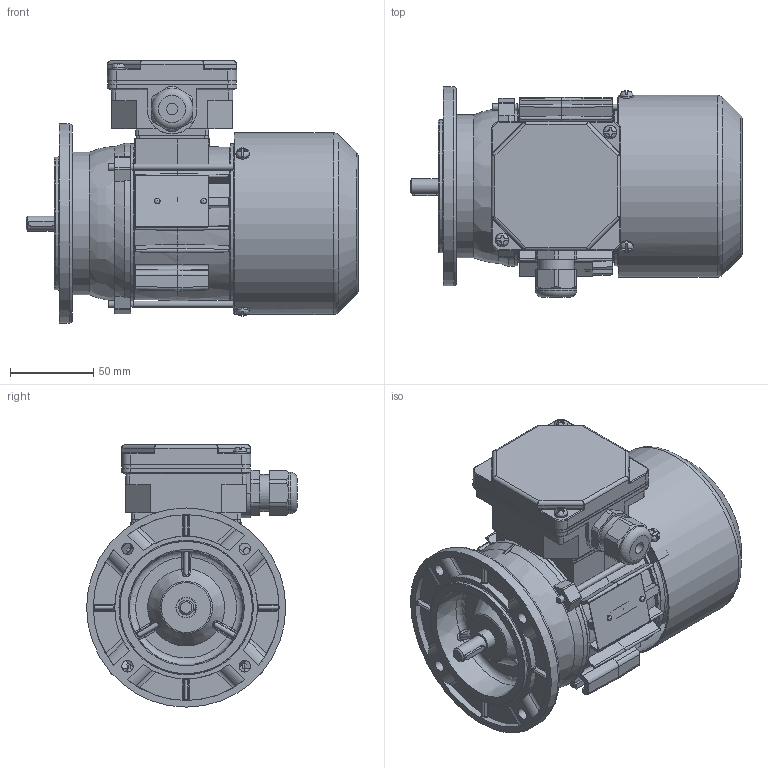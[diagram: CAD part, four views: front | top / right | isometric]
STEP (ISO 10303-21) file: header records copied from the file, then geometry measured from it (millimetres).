
FILE_DESCRIPTION( ( 'Unknown' ), '1' );
FILE_NAME( 'G:/Poczta Tk-1/STP/w.m.56/Sh56/SKh56-C.stp', 'Unknown', ( 'K. Szlosek' ), ( 'BESEL S.A.' ), 'PSStep 17.0.49', 'Unknown', ' ' );
FILE_SCHEMA( ( 'AUTOMOTIVE_DESIGN { 1 0 10303 214 1 1 1 1 }' ) );
Length unit declared in the file: millimetre
Products named in the file (28): Assem1; K4-2320 Uszczelka nr 1 Sh71,80; K3-2193 Tarcza łożyskowa P Sg56-2..; K2-0860 Pokrywka skrzynki zaciskowej; Wpust A3x3x16; K3-2977 Osłona przewietrznika Sg56; K4-2820 Uszczelka nr 2 Sh71,80; Wkręt samogwintujący M4x8; Wkręt samogwintujący M4x16; K2-0879 Przewietrznik Sg56; Nitokołek A 2x6; K3-9987 kadłub ze stojanem Sh56-C; K3-9990 wał Sh56-C; K1-0512 Tarcza kołnierzowa B5  SKg56-..; K2-0859 Podstawa skrzynki 6-cio zaciskowej; Śruba ściągająca E_M4x85; Łożysko 6201; Dławnica M20x1,5; Tabliczka znamionowa 32x44
Assembly tree (43 placements, depth 2):
  Assem1
    K4-2320 Uszczelka nr 1 Sh71,80
    K3-2193 Tarcza łożyskowa P Sg56-2..
    K2-0860 Pokrywka skrzynki zaciskowej
    Wpust A3x3x16
    K3-2977 Osłona przewietrznika Sg56
    K4-2820 Uszczelka nr 2 Sh71,80
    Wkręt samogwintujący M4x8  x3
    Wkręt samogwintujący M4x16  x2
    K2-0879 Przewietrznik Sg56
    Nitokołek A 2x6  x2
    K3-9987 kadłub ze stojanem Sh56-C
    K3-9990 wał Sh56-C
    K1-0512 Tarcza kołnierzowa B5  SKg56-..
    K2-0859 Podstawa skrzynki 6-cio zaciskowej
    Śruba ściągająca E_M4x85  x3
    Łożysko 6201  x2
    Łożysko 6201  x2
    Łożysko 6201  x2
    Łożysko 6201  x2
    Łożysko 6201  x2
    Łożysko 6201  x2
    Łożysko 6201  x2
    Łożysko 6201  x2
    Łożysko 6201  x2
    Łożysko 6201  x2
    Dławnica M20x1,5
    Tabliczka znamionowa 32x44
Bounding box: 200 x 127 x 158 mm (x, y, z)
Volume: 437375.9 mm3; surface area: 309561.5 mm2
Topology: 43 solids, 59 shells, 1776 faces, 4778 edges, 3082 vertices
Faces by surface type: plane 902, cylinder 525, bspline 117, cone 104, torus 94, sphere 34
Full cylindrical faces by diameter (mm): 2 x2, 2.4 x2, 3.3 x3, 3.7 x10, 4 x8, 4.5 x4, 4.8 x4, 5 x4, 7 x8, 8 x6, 9 x1, 10.9 x1, 11 x1, 11.5 x1, 11.8 x2, 12 x4, 12.4 x2, 15.5 x1, 16 x1, 16.1 x1, 17 x2, 18.376 x1, 18.38 x1, 18.52 x4, 20 x1, 22.3 x1, 24 x2, 25 x1, 25.48 x4, 27 x2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
Entity records: 79320 total; most frequent: CARTESIAN_POINT 26478, ORIENTED_EDGE 8196, DIRECTION 8054, EDGE_CURVE 4098, AXIS2_PLACEMENT_3D 2988, VERTEX_POINT 2770, LINE 2078, VECTOR 2078
